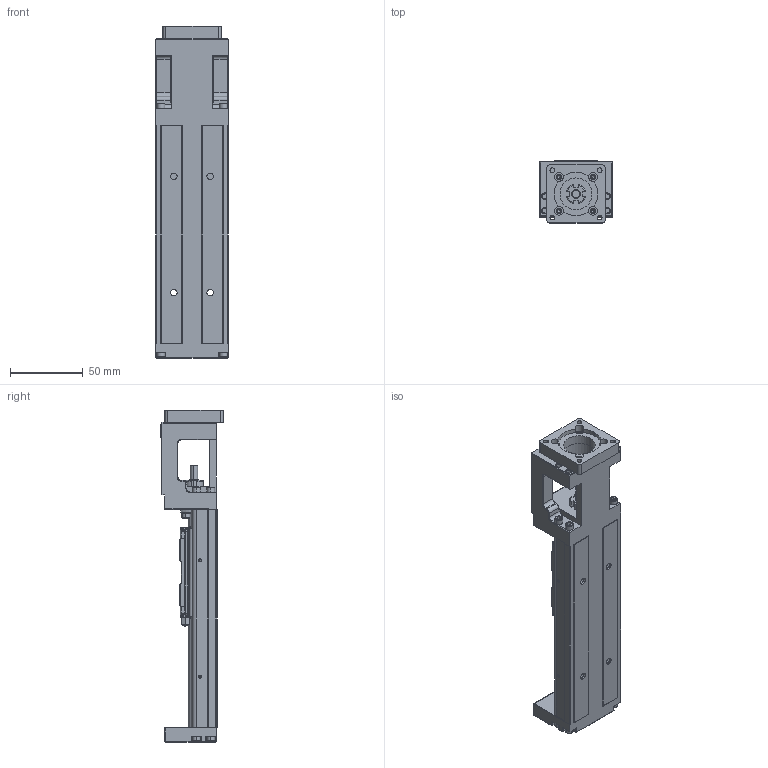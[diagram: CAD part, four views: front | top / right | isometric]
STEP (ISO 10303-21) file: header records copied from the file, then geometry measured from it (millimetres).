
FILE_DESCRIPTION (( 'STEP AP214' ), '1' );
FILE_NAME ('7.0100 KT5002C-150A1-F1.STEP', '2026-03-17T09:11:55', ( '' ), ( '' ), 'SwSTEP 2.0', 'SolidWorks 2025', '' );
FILE_SCHEMA (( 'AUTOMOTIVE_DESIGN' ));
Length unit declared in the file: millimetre
Products named in the file (4): 7.0100 KT5002C-150A1-F1; KT50-FS-0802; KT50-K0_150; KT-50-F1 Delta 100W motor plate
Assembly tree (3 placements, depth 2):
  7.0100 KT5002C-150A1-F1
    KT50-K0_150
    KT50-FS-0802
    KT-50-F1 Delta 100W motor plate
Bounding box: 50 x 42.7 x 228.5 mm (x, y, z)
Volume: 190729.4 mm3; surface area: 75542.4 mm2
Topology: 22 solids, 22 shells, 1801 faces, 4768 edges, 3081 vertices
Faces by surface type: plane 1186, cylinder 442, cone 82, torus 59, bspline 17, sphere 15
Entity records: 75157 total; most frequent: CARTESIAN_POINT 11850, ORIENTED_EDGE 9454, DIRECTION 9212, EDGE_CURVE 4727, VECTOR 3462, LINE 3462, VERTEX_POINT 3079, AXIS2_PLACEMENT_3D 2875
